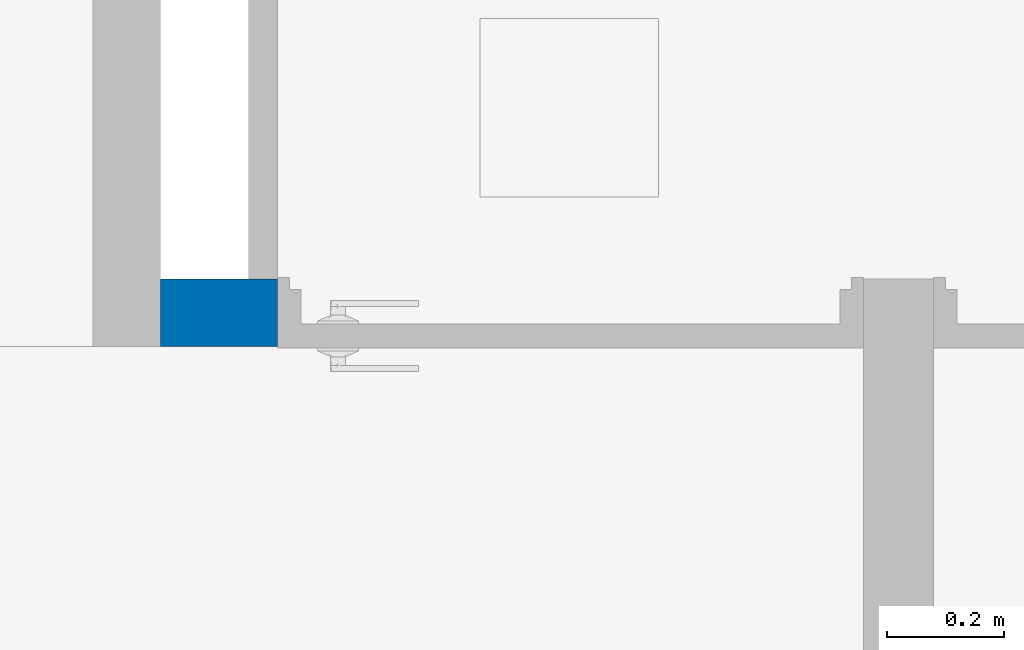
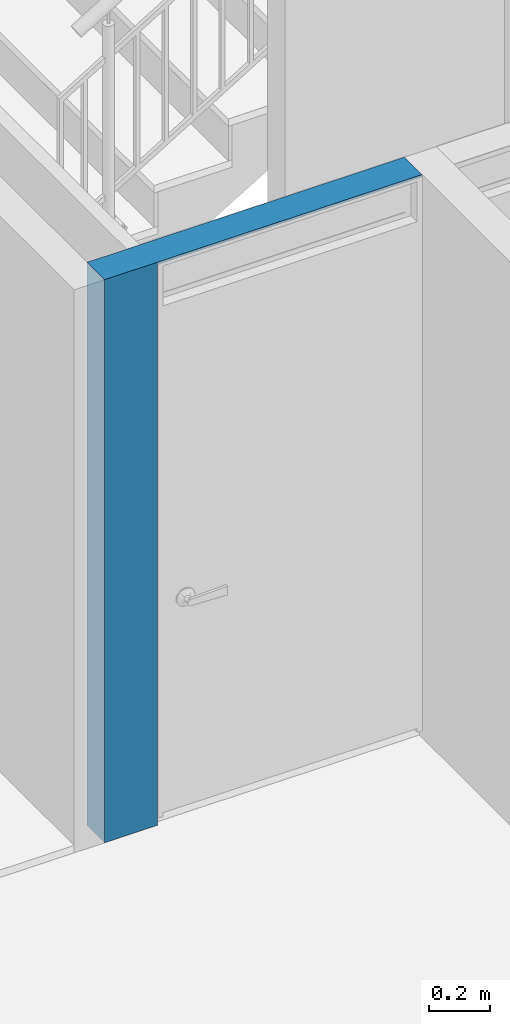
# One storey, part 29 of 48: 1 wall, 1 opening.
"""IFC4 building model written with IfcOpenShell, lengths in metres."""

from ifc_helpers import new_model, entity, si_unit, converted_unit, derived_unit, direction, frame, origin, place, context, subcontext, project, spatial, indexed_curve, outline, extrude, polygons, material, type_object, element, save


model = new_model("IFC4")

# Units and contexts
model_context = context("Model", 3, precision=1e-05, world=origin(), true_north=direction((6.123031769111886e-17, 1.0)))
body_context = subcontext(model_context, "Body", "Model", "MODEL_VIEW")
ifc_project = project(units=[si_unit("LENGTHUNIT", "METRE"), si_unit("AREAUNIT", "SQUARE_METRE"), si_unit("VOLUMEUNIT", "CUBIC_METRE"), converted_unit("PLANEANGLEUNIT", "DEGREE", entity("IfcRatioMeasure", 0.017453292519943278), si_unit("PLANEANGLEUNIT", "RADIAN"), dimensions=[0, 0, 0, 0, 0, 0, 0]), si_unit("MASSUNIT", "GRAM", prefix="KILO"), derived_unit("MASSDENSITYUNIT", [(si_unit("MASSUNIT", "GRAM", prefix="KILO"), 1), (si_unit("LENGTHUNIT", "METRE"), -3)]), derived_unit("IONCONCENTRATIONUNIT", [(si_unit("MASSUNIT", "GRAM", prefix="KILO"), 1), (si_unit("LENGTHUNIT", "METRE"), -3)]), derived_unit("MOMENTOFINERTIAUNIT", [(si_unit("LENGTHUNIT", "METRE"), 4)]), si_unit("TIMEUNIT", "SECOND"), si_unit("FREQUENCYUNIT", "HERTZ"), si_unit("THERMODYNAMICTEMPERATUREUNIT", "DEGREE_CELSIUS"), derived_unit("THERMALTRANSMITTANCEUNIT", [(si_unit("MASSUNIT", "GRAM", prefix="KILO"), 1), (si_unit("THERMODYNAMICTEMPERATUREUNIT", "KELVIN"), -1), (si_unit("TIMEUNIT", "SECOND"), -3)]), derived_unit("THERMALCONDUCTANCEUNIT", [(si_unit("MASSUNIT", "GRAM", prefix="KILO"), 1), (si_unit("THERMODYNAMICTEMPERATUREUNIT", "KELVIN"), -1), (si_unit("TIMEUNIT", "SECOND"), -3), (si_unit("LENGTHUNIT", "METRE"), 1)]), derived_unit("VOLUMETRICFLOWRATEUNIT", [(si_unit("LENGTHUNIT", "METRE"), 3), (si_unit("TIMEUNIT", "SECOND"), -1)]), derived_unit("MASSFLOWRATEUNIT", [(si_unit("MASSUNIT", "GRAM", prefix="KILO"), 1), (si_unit("TIMEUNIT", "SECOND"), -1)]), derived_unit("ROTATIONALFREQUENCYUNIT", [(si_unit("TIMEUNIT", "SECOND"), -1)]), si_unit("ELECTRICCURRENTUNIT", "AMPERE"), si_unit("ELECTRICVOLTAGEUNIT", "VOLT"), si_unit("POWERUNIT", "WATT"), si_unit("FORCEUNIT", "NEWTON", prefix="KILO"), si_unit("ILLUMINANCEUNIT", "LUX"), si_unit("LUMINOUSFLUXUNIT", "LUMEN"), si_unit("LUMINOUSINTENSITYUNIT", "CANDELA"), derived_unit("USERDEFINED", [(si_unit("MASSUNIT", "GRAM", prefix="KILO"), -1), (si_unit("LENGTHUNIT", "METRE"), -2), (si_unit("TIMEUNIT", "SECOND"), 3), (si_unit("LUMINOUSFLUXUNIT", "LUMEN"), 1)]), derived_unit("USERDEFINED", [(si_unit("MASSUNIT", "GRAM", prefix="KILO"), 1), (si_unit("TIMEUNIT", "SECOND"), -3), (si_unit("LENGTHUNIT", "METRE"), 3), (si_unit("ELECTRICCURRENTUNIT", "AMPERE"), -2)]), derived_unit("SOUNDPOWERUNIT", [(si_unit("MASSUNIT", "GRAM", prefix="KILO"), 1), (si_unit("TIMEUNIT", "SECOND"), -3), (si_unit("LENGTHUNIT", "METRE"), 2)]), derived_unit("SOUNDPRESSUREUNIT", [(si_unit("MASSUNIT", "GRAM", prefix="KILO"), 1), (si_unit("LENGTHUNIT", "METRE"), -1), (si_unit("TIMEUNIT", "SECOND"), -2)]), derived_unit("LINEARVELOCITYUNIT", [(si_unit("LENGTHUNIT", "METRE"), 1), (si_unit("TIMEUNIT", "SECOND"), -1)]), si_unit("PRESSUREUNIT", "PASCAL"), derived_unit("USERDEFINED", [(si_unit("MASSUNIT", "GRAM", prefix="KILO"), 1), (si_unit("LENGTHUNIT", "METRE"), -2), (si_unit("TIMEUNIT", "SECOND"), -2)]), derived_unit("LINEARFORCEUNIT", [(si_unit("MASSUNIT", "GRAM", prefix="KILO"), 1), (si_unit("TIMEUNIT", "SECOND"), -2)]), derived_unit("PLANARFORCEUNIT", [(si_unit("MASSUNIT", "GRAM", prefix="KILO"), 1), (si_unit("LENGTHUNIT", "METRE"), -1), (si_unit("TIMEUNIT", "SECOND"), -2)]), derived_unit("SPECIFICHEATCAPACITYUNIT", [(si_unit("THERMODYNAMICTEMPERATUREUNIT", "KELVIN"), -1), (si_unit("LENGTHUNIT", "METRE"), 2), (si_unit("TIMEUNIT", "SECOND"), -2)]), derived_unit("HEATINGVALUEUNIT", [(si_unit("LENGTHUNIT", "METRE"), 2), (si_unit("TIMEUNIT", "SECOND"), -2)]), derived_unit("VAPORPERMEABILITYUNIT", [(si_unit("LENGTHUNIT", "METRE"), -1), (si_unit("TIMEUNIT", "SECOND"), 1)]), derived_unit("DYNAMICVISCOSITYUNIT", [(si_unit("MASSUNIT", "GRAM", prefix="KILO"), 1), (si_unit("TIMEUNIT", "SECOND"), -1), (si_unit("LENGTHUNIT", "METRE"), -1)]), derived_unit("THERMALEXPANSIONCOEFFICIENTUNIT", [(si_unit("THERMODYNAMICTEMPERATUREUNIT", "KELVIN"), -1)]), derived_unit("MODULUSOFELASTICITYUNIT", [(si_unit("MASSUNIT", "GRAM", prefix="KILO"), 1), (si_unit("LENGTHUNIT", "METRE"), -1), (si_unit("TIMEUNIT", "SECOND"), -2)]), derived_unit("ISOTHERMALMOISTURECAPACITYUNIT", [(si_unit("LENGTHUNIT", "METRE"), 3), (si_unit("MASSUNIT", "GRAM", prefix="KILO"), -1)]), derived_unit("MOISTUREDIFFUSIVITYUNIT", [(si_unit("TIMEUNIT", "SECOND"), -1), (si_unit("LENGTHUNIT", "METRE"), 2)])], contexts=[model_context])

# Site, building, storey
site_placement = place(None, origin())
site = spatial("IfcSite", under=ifc_project, at=site_placement, Name="Default", CompositionType="ELEMENT")
building_placement = place(site_placement, origin())
building = spatial("IfcBuilding", under=site, at=building_placement, CompositionType="ELEMENT")
storey_placement = place(building_placement, frame((0.0, 0.0, 7.050000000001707)))
storey = spatial("IfcBuildingStorey", under=building, at=storey_placement, Name="Nivel 4", CompositionType="ELEMENT", Elevation=7.050000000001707)

# Wall, opening
ifc_material = material(Name="LADRILLO CLARO", Category="Materials")
wall_type = type_object("IfcWallType", Name="Basic Wall:B2010 - 0.115m - MI mampostería no estructural - Ladrillo", PredefinedType="STANDARD")
wall_placement = place(storey_placement, frame((8.062500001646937, -9.082499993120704, 0.0)))
wall = element("IfcWall", 1, at=wall_placement, inside=storey, type_object=wall_type, material=ifc_material, Name="Basic Wall:B2010 - 0.115m - MI mampostería no estructural - Ladrillo", ObjectType="Basic Wall:B2010 - 0.115m - MI mampostería no estructural - Ladrillo", PredefinedType="NOTDEFINED", context=body_context, shape_type="Tessellation", body=[
    polygons([(1.199999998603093, -0.057499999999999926, 2.2499999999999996), (3.815772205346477e-17, -0.057499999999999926, 2.2499999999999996), (3.815772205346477e-17, -0.057499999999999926, 0.0), (0.19999999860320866, -0.057499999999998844, 0.0), (0.19999999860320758, -0.057499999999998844, 2.2399999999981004), (1.199999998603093, -0.057499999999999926, 2.2399999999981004), (-1.509021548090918e-15, 0.057499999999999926, 2.2499999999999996), (0.1499999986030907, 0.057499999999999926, 2.2499999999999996), (0.19999999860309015, 0.05750000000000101, 2.2499999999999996), (1.1999999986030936, 0.057499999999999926, 2.2499999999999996), (1.1999999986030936, 0.057499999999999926, 2.2399999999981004), (0.1999999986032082, 0.05750000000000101, 2.2399999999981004), (0.1999999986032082, 0.05750000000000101, 0.0), (0.1499999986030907, 0.057499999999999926, 0.0), (-1.509021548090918e-15, 0.057499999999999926, 0.0)], [[[1, 2, 3, 4, 5, 6]], [[7, 8, 9, 10, 11, 12, 13, 14, 15]], [[3, 15, 14, 13, 4]], [[10, 1, 6, 11]], [[2, 1, 10, 9, 8, 7]], [[3, 2, 7, 15]], [[12, 5, 4, 13]], [[5, 12, 11, 6]]], closed=True),
])
opening_placement = place(wall_placement, frame((1.1999999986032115, 0.057499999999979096, 0.0)))
element("IfcOpeningElement", 2, at=opening_placement, cuts=wall, Name="C1030 - Puerta batiente - Madera + Metal:C1030 - 1.00 x 2.24 - Puerta batiente - Madera:1", PredefinedType="OPENING", context=body_context, shape_type="SweptSolid", body=[
    extrude(outline(indexed_curve([(0.0, 0.999999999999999), (0.0, -5.404556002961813e-30), (2.239999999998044, -5.404556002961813e-30), (2.2399999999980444, 0.999999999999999), (0.0, 0.999999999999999)], self_intersect=False)), frame((0.0, 0.0, 0.0), z_axis=(0.0, -1.0, 0.0), x_axis=(0.0, 0.0, 1.0)), (0.0, 0.0, 1.0), 0.115),
])

save(model, "model.ifc")
